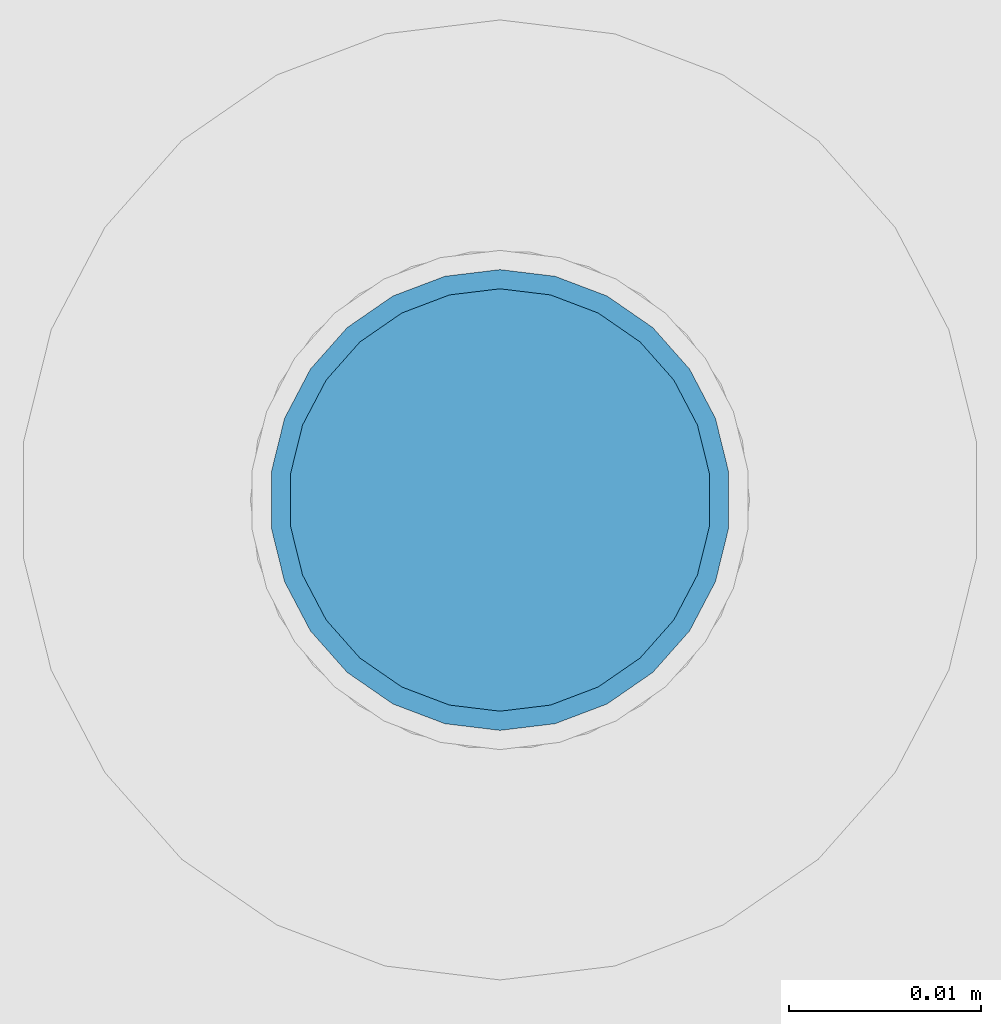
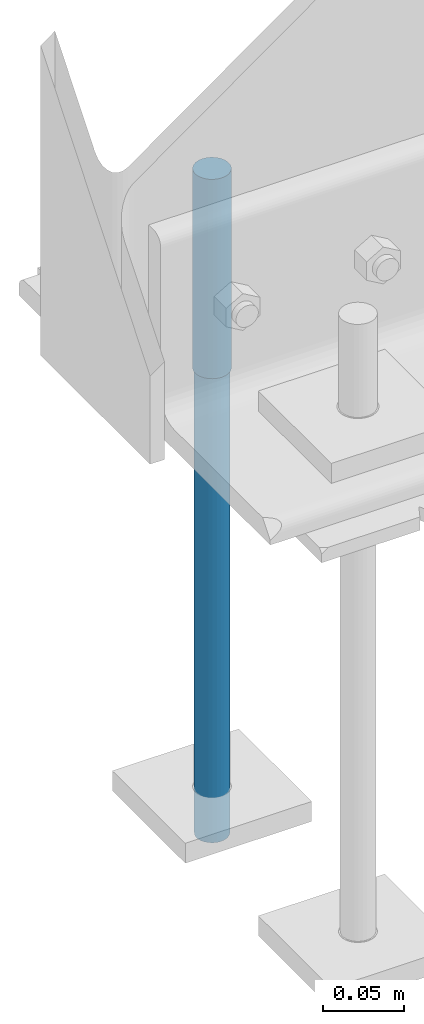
# One storey, part 65 of 123: 2 discrete accessories, 1 element without a shape of its own.
"""IFC2X3 building model written with IfcOpenShell, lengths in millimetres."""

import ifcopenshell
import ifcopenshell.guid

model = None  # the IFC model being written
_history = None  # IfcOwnerHistory: only IFC2X3 demands one
_inside = {}  # id of a spatial element -> (the spatial element, [elements in it])
_under = {}  # id of a project, library or spatial element -> (it, [spatial elements below it])
_declared = {}  # id of a project -> (the project, [libraries it declares])
_typed = {}  # id of a type object -> (the type object, [elements of that type])
_made_of = {}  # id of a material, layer set ... -> (it, [elements and type objects made of it])


def new_model(schema):
    """Start an empty IFC model of exactly this schema.

    Asked for "IFC4X3", IfcOpenShell would pick the latest addendum, in which some entities
    have other attributes; the version numbers below select the first issue.
    IFC2X3 requires an IfcOwnerHistory on every rooted entity: one is made here for all.
    """
    global model, _history
    if schema == "IFC4X3":
        model = ifcopenshell.file(schema_version=(4, 3, 0, 0))
    else:
        model = ifcopenshell.file(schema=schema)
    _inside.clear()
    _under.clear()
    _declared.clear()
    _typed.clear()
    _made_of.clear()
    _history = None
    if model.schema == "IFC2X3":
        org = make("IfcOrganization", Name="unknown")
        user = make(
            "IfcPersonAndOrganization",
            ThePerson=make("IfcPerson", FamilyName="unknown"),
            TheOrganization=org,
        )
        app = make(
            "IfcApplication",
            ApplicationDeveloper=org,
            Version="unknown",
            ApplicationFullName="unknown",
            ApplicationIdentifier="unknown",
        )
        _history = make(
            "IfcOwnerHistory",
            OwningUser=user,
            OwningApplication=app,
            ChangeAction="ADDED",
            CreationDate=0,
        )
    return model


def make(cls, **values):
    """One entity of the class cls with the attributes given. An attribute that is None is left unset."""
    return model.create_entity(
        cls, **{name: value for name, value in values.items() if value is not None}
    )


def rooted(cls, **values):
    """An entity with a GlobalId (a new one), such as an element, a storey or a relation."""
    return make(cls, GlobalId=ifcopenshell.guid.new(), OwnerHistory=_history, **values)


def si_unit(unit_type, name, prefix=None):
    """IfcSIUnit, for example si_unit("LENGTHUNIT", "METRE", prefix="MILLI")."""
    return make("IfcSIUnit", UnitType=unit_type, Prefix=prefix, Name=name)


def assignment(units):
    """IfcUnitAssignment: the units of a project."""
    return None if units is None else make("IfcUnitAssignment", Units=units)


def point(xyz):
    """IfcCartesianPoint."""
    return None if xyz is None else make("IfcCartesianPoint", Coordinates=xyz)


def direction(xyz):
    """IfcDirection."""
    return None if xyz is None else make("IfcDirection", DirectionRatios=xyz)


def frame(location, z_axis=None, x_axis=None):
    """IfcAxis2Placement3D, a coordinate frame: its origin and axes. An axis left out is left unset."""
    return make(
        "IfcAxis2Placement3D",
        Location=point(location),
        Axis=direction(z_axis),
        RefDirection=direction(x_axis),
    )


def frame_2d(location, x_axis=None):
    """IfcAxis2Placement2D, a coordinate frame in the plane: its origin and x axis."""
    return make(
        "IfcAxis2Placement2D", Location=point(location), RefDirection=direction(x_axis)
    )


def origin_with_axes():
    """The frame at (0, 0, 0) with the z axis (0, 0, 1) and the x axis (1, 0, 0) written out."""
    return frame((0.0, 0.0, 0.0), z_axis=(0.0, 0.0, 1.0), x_axis=(1.0, 0.0, 0.0))


def origin_2d_with_axis():
    """The frame at (0, 0) in the plane with the x axis (1, 0) written out."""
    return frame_2d((0.0, 0.0), x_axis=(1.0, 0.0))


def place(relative_to, where):
    """IfcLocalPlacement: puts the frame where relative to a parent placement (None: the world)."""
    return make(
        "IfcLocalPlacement", PlacementRelTo=relative_to, RelativePlacement=where
    )


def context(
    kind, dimensions, precision=None, world=None, true_north=None, identifier=None
):
    """IfcGeometricRepresentationContext, for example the 3D "Model" context."""
    return make(
        "IfcGeometricRepresentationContext",
        ContextIdentifier=identifier,
        ContextType=kind,
        CoordinateSpaceDimension=dimensions,
        Precision=precision,
        WorldCoordinateSystem=world,
        TrueNorth=true_north,
    )


def subcontext(parent, identifier, kind, view, scale=None):
    """IfcGeometricRepresentationSubContext, for example "Body" below "Model"."""
    return make(
        "IfcGeometricRepresentationSubContext",
        ContextIdentifier=identifier,
        ContextType=kind,
        ParentContext=parent,
        TargetScale=scale,
        TargetView=view,
    )


def project(units=None, contexts=None):
    """IfcProject with its units and contexts."""
    return rooted(
        "IfcProject",
        Name="project",
        RepresentationContexts=contexts,
        UnitsInContext=assignment(units),
    )


def spatial(cls, under=None, at=None, **own):
    """A site, building, storey or space (cls), placed at a placement, below another one or the project."""
    s = rooted(cls, ObjectPlacement=at, **own)
    if under is not None:
        _under.setdefault(under.id(), (under, []))[1].append(s)
    return s


def profile(cls, at=None, kind="AREA", **sizes):
    """A parametric profile (cls). Its sizes go by their IFC names, for example OverallWidth=200.0."""
    return make(cls, ProfileType=kind, Position=at, **sizes)


def circle(**sizes):
    """IfcCircleProfileDef."""
    return profile("IfcCircleProfileDef", **sizes)


def extrude(swept, where, along, depth):
    """IfcExtrudedAreaSolid: the profile swept, set in the frame where, extruded along a direction by depth."""
    return make(
        "IfcExtrudedAreaSolid",
        SweptArea=swept,
        Position=where,
        ExtrudedDirection=direction(along),
        Depth=depth,
    )


def shape(context_of_items, identifier, shape_type, items):
    """IfcShapeRepresentation: the items that make up one representation, for example the "Body"."""
    return make(
        "IfcShapeRepresentation",
        ContextOfItems=context_of_items,
        RepresentationIdentifier=identifier,
        RepresentationType=shape_type,
        Items=items,
    )


def material(Name=None, Category=None):
    """IfcMaterial."""
    return make("IfcMaterial", Name=Name, Category=Category)


def made_of(thing, what):
    """Note that an element or type object is made of a material, layer set ...; save() writes the relation."""
    if what is not None:
        _made_of.setdefault(what.id(), (what, []))[1].append(thing)
    return thing


def type_object(cls, material=None, **own):
    """A type object (cls), such as IfcWallType, which elements share."""
    return made_of(rooted(cls, **own), material)


def element(
    cls,
    number,
    at=None,
    inside=None,
    cuts=None,
    type_object=None,
    material=None,
    context=None,
    identifier="Body",
    shape_type=None,
    held_by="IfcProductDefinitionShape",
    body=None,
    shapes=None,
    **own,
):
    """One element of the class cls, such as IfcWall. Its Tag is "e" and its number.

    at: its placement. inside: the storey or other place that contains it. cuts: it is an
    opening in that element (IfcRelVoidsElement). A single representation is given by context,
    identifier, shape_type and body (its items); several are given by shapes. held_by: the class
    of the entity that holds the representations. save() writes the other relations.
    """
    e = rooted(cls, Tag="e%d" % number, ObjectPlacement=at, **own)
    if body is not None:
        shapes = [shape(context, identifier, shape_type, body)]
    if shapes is not None:
        e.Representation = make(held_by, Representations=shapes)
    if inside is not None:
        _inside.setdefault(inside.id(), (inside, []))[1].append(e)
    if cuts is not None:
        rooted(
            "IfcRelVoidsElement", RelatingBuildingElement=cuts, RelatedOpeningElement=e
        )
    if type_object is not None:
        _typed.setdefault(type_object.id(), (type_object, []))[1].append(e)
    return made_of(e, material)


def aggregate(whole, parts):
    """IfcRelAggregates: a whole, such as a stair, and the parts it consists of."""
    return rooted("IfcRelAggregates", RelatingObject=whole, RelatedObjects=parts)


def save(model, path):
    """Write the relations noted so far, then the file.

    IfcRelAggregates (storeys below a building ...), IfcRelContainedInSpatialStructure (elements
    in a storey), IfcRelDefinesByType, IfcRelAssociatesMaterial and IfcRelDeclares: one each for
    every whole, place, type object, material and project.
    """
    for whole, parts in _under.values():
        aggregate(whole, parts)
    for where, things in _inside.values():
        rooted(
            "IfcRelContainedInSpatialStructure",
            RelatedElements=things,
            RelatingStructure=where,
        )
    for kind, things in _typed.values():
        rooted("IfcRelDefinesByType", RelatedObjects=things, RelatingType=kind)
    for what, things in _made_of.values():
        rooted("IfcRelAssociatesMaterial", RelatedObjects=things, RelatingMaterial=what)
    for by, libraries in _declared.values():
        rooted("IfcRelDeclares", RelatingContext=by, RelatedDefinitions=libraries)
    model.write(path)


model = new_model("IFC2X3")

# Units and contexts
model_context = context("Model", 3, precision=1e-05, world=origin_with_axes())
body_context = subcontext(model_context, "Body", "Model", "MODEL_VIEW")
ifc_project = project(units=[si_unit("LENGTHUNIT", "METRE", prefix="MILLI"), si_unit("AREAUNIT", "SQUARE_METRE"), si_unit("VOLUMEUNIT", "CUBIC_METRE"), si_unit("MASSUNIT", "GRAM", prefix="KILO"), si_unit("TIMEUNIT", "SECOND"), si_unit("PLANEANGLEUNIT", "RADIAN"), si_unit("SOLIDANGLEUNIT", "STERADIAN"), si_unit("THERMODYNAMICTEMPERATUREUNIT", "DEGREE_CELSIUS"), si_unit("LUMINOUSINTENSITYUNIT", "LUMEN")], contexts=[model_context])

# Site, building, storey
site_placement = place(None, origin_with_axes())
site = spatial("IfcSite", under=ifc_project, at=site_placement, Name="Undefined", CompositionType="ELEMENT")
building_placement = place(site_placement, origin_with_axes())
building = spatial("IfcBuilding", under=site, at=building_placement, Name="Undefined", CompositionType="ELEMENT")
storey_placement = place(building_placement, origin_with_axes())
storey = spatial("IfcBuildingStorey", under=building, at=storey_placement, Name="Undefined", CompositionType="ELEMENT", Elevation=0.0)

# Assembly, discrete accessories
assembly_placement = place(storey_placement, origin_with_axes())
assembly = element("IfcElementAssembly", 1, at=assembly_placement, inside=storey, Name="Steel Assembly", AssemblyPlace="NOTDEFINED", PredefinedType="RIGID_FRAME")
ifc_material = material(Name="STEEL/S235-E24")
discrete_accessory_type = type_object("IfcDiscreteAccessoryType", Name="TIGE D'ANCRAGE")
discrete_accessory_1_placement = place(assembly_placement, frame((-45.0, 3889.99715044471, -150.0), z_axis=(-1.0, 0.0, 0.0), x_axis=(0.0, 0.0, -1.0)))
discrete_accessory_1 = element("IfcDiscreteAccessory", 2, at=discrete_accessory_1_placement, type_object=discrete_accessory_type, material=ifc_material, Name="TIGE D'ANCRAGE", ObjectType="D24", context=body_context, shape_type="SweptSolid", body=[
    extrude(circle(Radius=12.0, at=origin_2d_with_axis()), frame((150.0, 0.0, 0.0), z_axis=(-1.0, 0.0, 0.0), x_axis=(0.0, -1.0, 0.0)), (0.0, 0.0, 1.0), 150.0),
])
discrete_accessory_2_placement = place(assembly_placement, frame((-45.0, 3889.99715044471, -300.0), z_axis=(-1.0, 0.0, 0.0), x_axis=(0.0, 0.0, -1.0)))
discrete_accessory_2 = element("IfcDiscreteAccessory", 3, at=discrete_accessory_2_placement, type_object=discrete_accessory_type, material=ifc_material, Name="TIGE D'ANCRAGE", ObjectType="D22", context=body_context, shape_type="SweptSolid", body=[
    extrude(circle(Radius=11.0, at=origin_2d_with_axis()), frame((350.0, 0.0, 0.0), z_axis=(-1.0, 0.0, 0.0), x_axis=(0.0, -1.0, 0.0)), (0.0, 0.0, 1.0), 350.0),
])
aggregate(assembly, [discrete_accessory_1, discrete_accessory_2])

save(model, "model.ifc")
